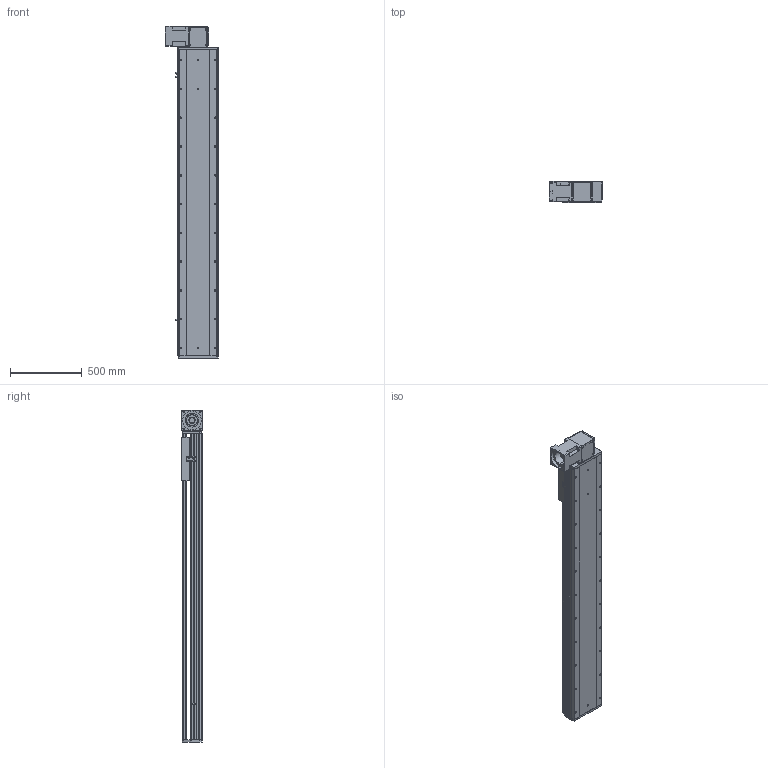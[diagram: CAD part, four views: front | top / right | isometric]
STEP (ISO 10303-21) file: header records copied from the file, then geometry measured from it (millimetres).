
FILE_DESCRIPTION (( 'STEP AP214' ), '1' );
FILE_NAME ('RTB28R-XX-1700-BR-M100-XX-C4.STEP', '2025-12-22T01:14:46', ( '' ), ( '' ), 'SwSTEP 2.0', 'SolidWorks 2018', '' );
FILE_SCHEMA (( 'AUTOMOTIVE_DESIGN' ));
Length unit declared in the file: millimetre
Products named in the file (4): RTB28R-XX-1700-BR-M100-XX-C4; RTB28S-GY-008^RTB28R-XX-XX-BR-M100-XX-C4; RTB28S-GY-004^RTB28R-XX-XX-BR-M100-XX-C4; RTB28S-GY-011^RTB28R-XX-XX-BR-M100-XX-C4
Assembly tree (3 placements, depth 2):
  RTB28R-XX-1700-BR-M100-XX-C4
    RTB28S-GY-011^RTB28R-XX-XX-BR-M100-XX-C4
    RTB28S-GY-004^RTB28R-XX-XX-BR-M100-XX-C4
    RTB28S-GY-008^RTB28R-XX-XX-BR-M100-XX-C4
Bounding box: 370 x 145 x 2307 mm (x, y, z)
Volume: 40643601.5 mm3; surface area: 3854878.2 mm2
Topology: 3 solids, 4 shells, 1018 faces, 2700 edges, 1736 vertices
Faces by surface type: plane 462, cylinder 385, bspline 87, cone 80, torus 4
Entity records: 43660 total; most frequent: CARTESIAN_POINT 11695, ORIENTED_EDGE 5336, DIRECTION 5196, EDGE_CURVE 2668, AXIS2_PLACEMENT_3D 1797, VERTEX_POINT 1736, VECTOR 1602, LINE 1602
